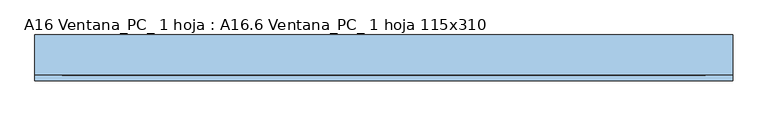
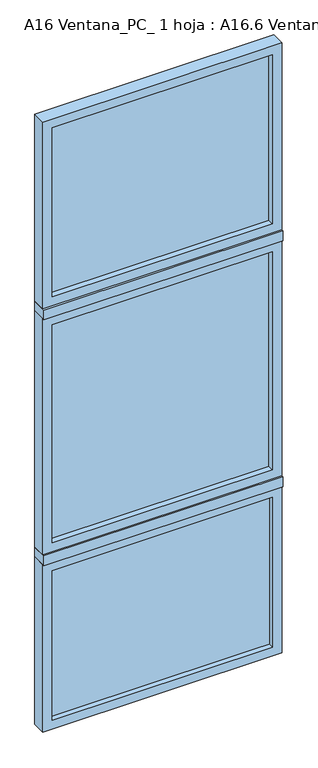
"""IFC4 building model written with IfcOpenShell, lengths in millimetres: window geometry, A16 Ventana_PC_ 1 hoja : A16.6 Ventana_PC_ 1 hoja 115x310."""

from ifc_helpers import new_model, si_unit, frame, origin, place, context, project, spatial, polyline, outline, extrude, source, transform, mapped, element, save


def a16_ventana_pc_1_hoja_a16_6_ventana_pc_1_hoja_115x310_a4d25a1e(model_context):
    return source(origin(), model_context, "Body", "SweptSolid", [
        extrude(outline(polyline([(530.0, -37.5), (530.0, -53.5), (-530.0, -53.5), (-530.0, -37.5), (530.0, -37.5)])), frame((0.0, 0.0, 45.0), z_axis=(0.0, 0.0, 1.0), x_axis=(1.0, 0.0, 0.0)), (0.0, 0.0, 1.0), 760.0),
        extrude(outline(polyline([(530.0, -42.5), (530.0, -48.5), (-530.0, -48.5), (-530.0, -42.5), (530.0, -42.5)])), frame((0.0, 0.0, 2195.0), z_axis=(0.0, 0.0, 1.0), x_axis=(1.0, 0.0, 0.0)), (0.0, 0.0, 1.0), 860.0),
        extrude(outline(polyline([(530.0, -42.5), (530.0, -48.5), (-530.0, -48.5), (-530.0, -42.5), (530.0, -42.5)])), frame((0.0, 0.0, 945.0), z_axis=(0.0, 0.0, 1.0), x_axis=(1.0, 0.0, 0.0)), (0.0, 0.0, 1.0), 1110.0),
        extrude(outline(polyline([(850.0, -575.0), (0.0, -575.0), (0.0, 575.0), (850.0, 575.0), (850.0, -575.0)]), holes=[polyline([(805.0, -530.0), (805.0, 530.0), (45.0, 530.0), (45.0, -530.0), (805.0, -530.0)])]), frame((0.0, -78.5, 0.0), z_axis=(0.0, 1.0, 0.0), x_axis=(0.0, 0.0, 1.0)), (0.0, 0.0, 1.0), 66.0),
        extrude(outline(polyline([(3100.0, -575.0), (2150.0, -575.0), (2150.0, 575.0), (3100.0, 575.0), (3100.0, -575.0)]), holes=[polyline([(3055.0, -530.0), (3055.0, 530.0), (2195.0, 530.0), (2195.0, -530.0), (3055.0, -530.0)])]), frame((0.0, -78.5, 0.0), z_axis=(0.0, 1.0, 0.0), x_axis=(0.0, 0.0, 1.0)), (0.0, 0.0, 1.0), 66.0),
        extrude(outline(polyline([(2100.0, -575.0), (900.0, -575.0), (900.0, 575.0), (2100.0, 575.0), (2100.0, -575.0)]), holes=[polyline([(2055.0, -530.0), (2055.0, 530.0), (945.0, 530.0), (945.0, -530.0), (2055.0, -530.0)])]), frame((0.0, -78.5, 0.0), z_axis=(0.0, 1.0, 0.0), x_axis=(0.0, 0.0, 1.0)), (0.0, 0.0, 1.0), 66.0),
        extrude(outline(polyline([(575.0, -12.5), (575.0, -87.5), (-575.0, -87.5), (-575.0, -12.5), (575.0, -12.5)])), frame((0.0, 0.0, 2100.0), z_axis=(0.0, 0.0, 1.0), x_axis=(1.0, 0.0, 0.0)), (0.0, 0.0, 1.0), 50.0),
        extrude(outline(polyline([(575.0, -12.5), (575.0, -87.5), (-575.0, -87.5), (-575.0, -12.5), (575.0, -12.5)])), frame((0.0, 0.0, 850.0), z_axis=(0.0, 0.0, 1.0), x_axis=(1.0, 0.0, 0.0)), (0.0, 0.0, 1.0), 50.0),
    ])


if __name__ == "__main__":
    model = new_model("IFC4")
    model_context = context("Model", 3, world=origin())
    ifc_project = project(units=[si_unit("LENGTHUNIT", "METRE", prefix="MILLI")], contexts=[model_context])
    site = spatial("IfcSite", under=ifc_project)
    building = spatial("IfcBuilding", under=site)
    placement = place(None, origin())
    a16_ventana_pc_1_hoja_a16_6_ventana_pc_1_hoja_115x310_shape = a16_ventana_pc_1_hoja_a16_6_ventana_pc_1_hoja_115x310_a4d25a1e(model_context)
    element("IfcWindow", 1, ObjectType="A16 Ventana_PC_ 1 hoja : A16.6 Ventana_PC_ 1 hoja 115x310", at=placement, inside=building, context=model_context, shape_type="MappedRepresentation", body=[
        mapped(a16_ventana_pc_1_hoja_a16_6_ventana_pc_1_hoja_115x310_shape, transform((0.0, 0.0, 0.0), x_axis=(1.0, 0.0, 0.0), y_axis=(0.0, 1.0, 0.0), z_axis=(0.0, 0.0, 1.0))),
    ])
    save(model, "model.ifc")
